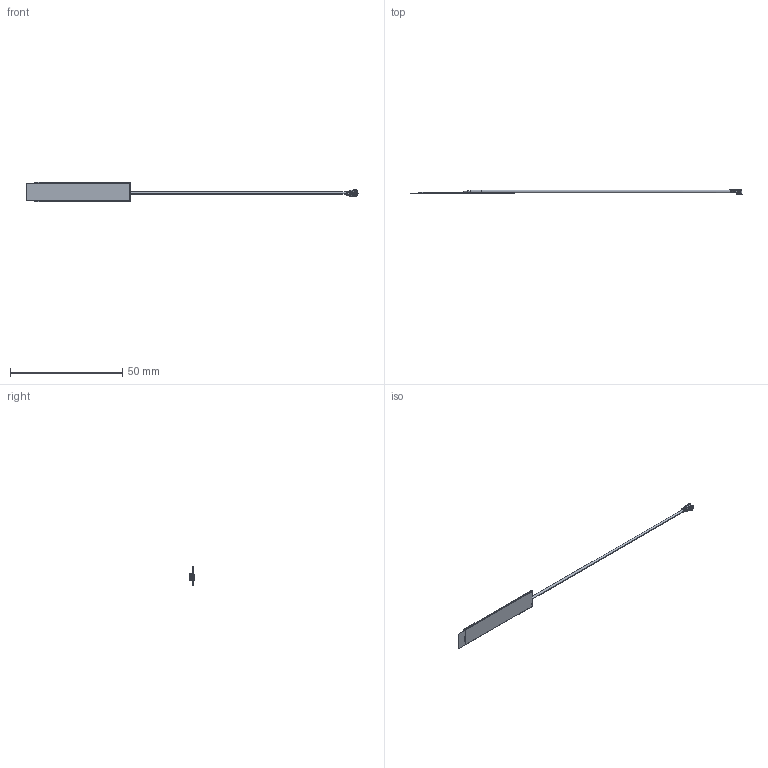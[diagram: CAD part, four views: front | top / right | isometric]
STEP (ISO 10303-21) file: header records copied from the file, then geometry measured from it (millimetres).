
FILE_DESCRIPTION((''),'2;1');
FILE_NAME('W4P42X8W04-UXXXD3B0A','2024-04-11T09:22:26',('ycollin'),(''),'CREO PARAMETRIC BY PTC INC, 2023072','CREO PARAMETRIC BY PTC INC, 2023072','');
FILE_SCHEMA(('CONFIG_CONTROL_DESIGN'));
Length unit declared in the file: millimetre
Products named in the file (1): W4P42X8W04-UXXXD3B0A
Bounding box: 147.94 x 2.1 x 8.6 mm (x, y, z)
Volume: 227.3 mm3; surface area: 1339.3 mm2
Topology: 1 solids, 2 shells, 386 faces, 1036 edges, 663 vertices
Faces by surface type: plane 227, cylinder 88, extrusion 25, cone 22, bspline 12, torus 10, sphere 2
Entity records: 13065 total; most frequent: CARTESIAN_POINT 3648, ORIENTED_EDGE 2056, DIRECTION 1751, EDGE_CURVE 1032, VECTOR 707, LINE 682, VERTEX_POINT 663, AXIS2_PLACEMENT_3D 522
